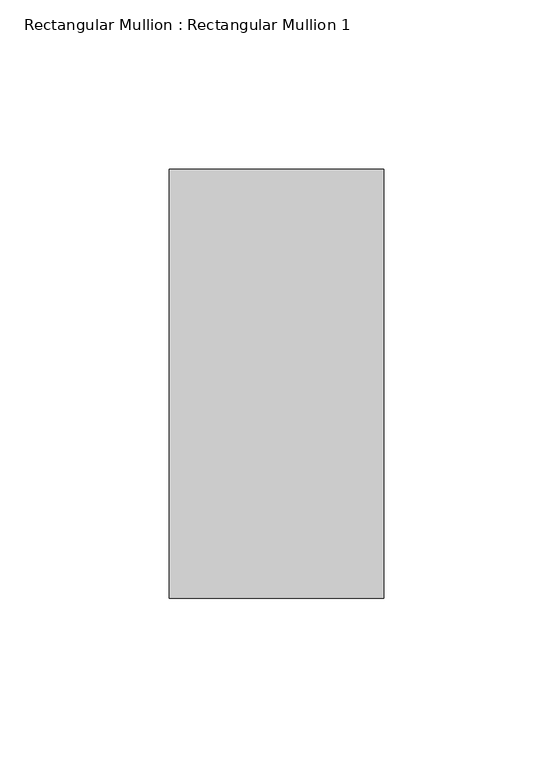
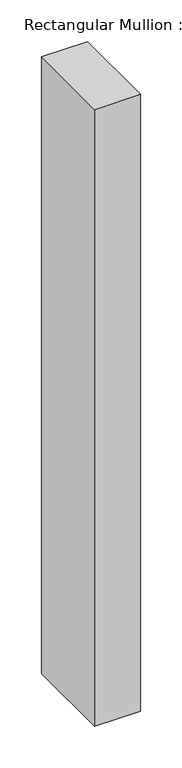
"""IFC4 building model written with IfcOpenShell, lengths in millimetres: member geometry, Rectangular Mullion : Rectangular Mullion 1."""

from ifc_helpers import new_model, si_unit, frame, origin, place, context, project, spatial, polyline, outline, extrude, source, transform, mapped, element, save


def rectangular_mullion_rectangular_mullion_1_a0a52acd(model_context):
    return source(origin(), model_context, "Body", "SweptSolid", [
        extrude(outline(polyline([(31.75, 63.5), (31.75, -63.5), (-31.75, -63.5), (-31.75, 63.5), (31.75, 63.5)])), frame((0.0, 0.0, -902.7583333), z_axis=(0.0, 0.0, 1.0), x_axis=(1.0, 0.0, 0.0)), (0.0, 0.0, 1.0), 902.7583333),
    ])


if __name__ == "__main__":
    model = new_model("IFC4")
    model_context = context("Model", 3, world=origin())
    ifc_project = project(units=[si_unit("LENGTHUNIT", "METRE", prefix="MILLI")], contexts=[model_context])
    site = spatial("IfcSite", under=ifc_project)
    building = spatial("IfcBuilding", under=site)
    placement = place(None, origin())
    rectangular_mullion_rectangular_mullion_1_shape = rectangular_mullion_rectangular_mullion_1_a0a52acd(model_context)
    element("IfcMember", 1, ObjectType="Rectangular Mullion : Rectangular Mullion 1", at=placement, inside=building, context=model_context, shape_type="MappedRepresentation", body=[
        mapped(rectangular_mullion_rectangular_mullion_1_shape, transform((0.0, 0.0, 0.0), x_axis=(1.0, 0.0, 0.0), y_axis=(0.0, 1.0, 0.0), z_axis=(0.0, 0.0, 1.0))),
    ])
    save(model, "model.ifc")
